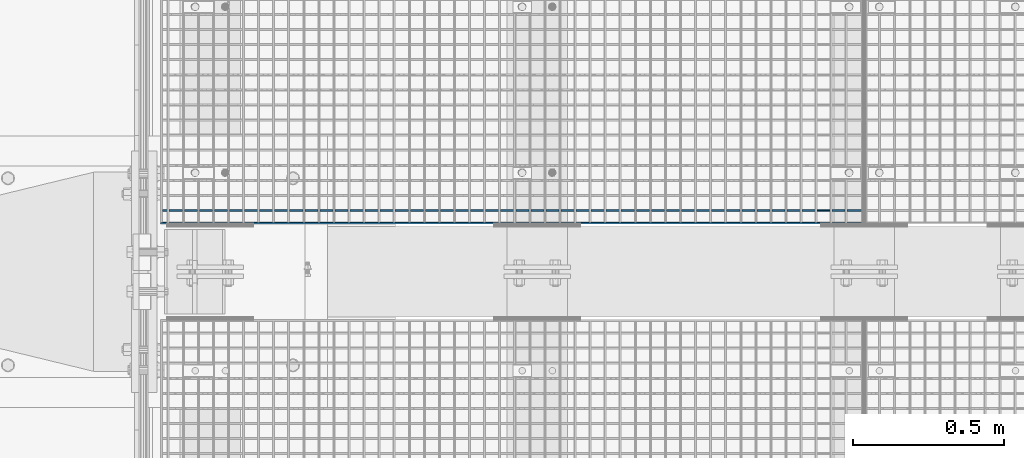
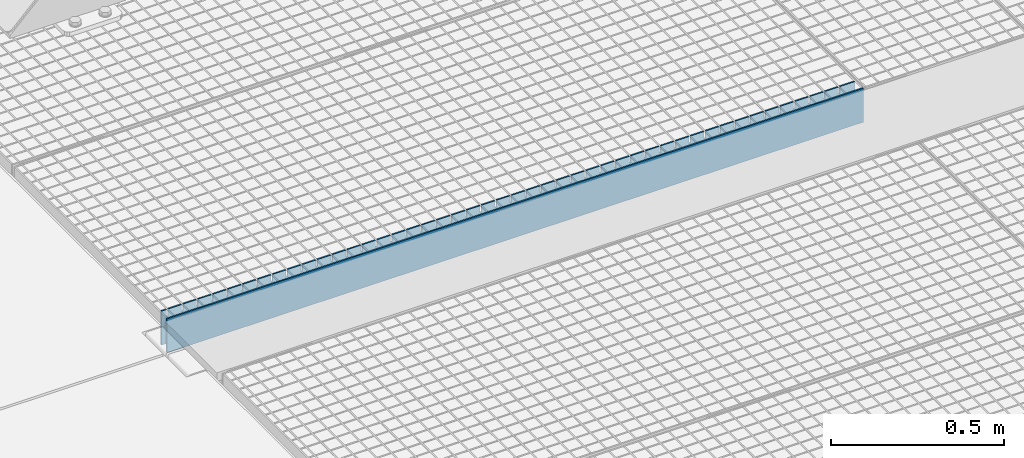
# One storey, part 317 of 1530: 2 beams.
"""IFC2X3 building model written with IfcOpenShell, lengths in millimetres."""

from ifc_helpers import new_model, si_unit, frame, origin_with_axes, place, context, subcontext, project, spatial, faceted_brep, material, type_object, element, save


model = new_model("IFC2X3")

# Units and contexts
model_context = context("Model", 3, precision=1e-05, world=origin_with_axes())
body_context = subcontext(model_context, "Body", "Model", "MODEL_VIEW")
ifc_project = project(units=[si_unit("LENGTHUNIT", "METRE", prefix="MILLI"), si_unit("AREAUNIT", "SQUARE_METRE"), si_unit("VOLUMEUNIT", "CUBIC_METRE"), si_unit("MASSUNIT", "GRAM", prefix="KILO"), si_unit("TIMEUNIT", "SECOND"), si_unit("PLANEANGLEUNIT", "RADIAN"), si_unit("SOLIDANGLEUNIT", "STERADIAN"), si_unit("THERMODYNAMICTEMPERATUREUNIT", "DEGREE_CELSIUS"), si_unit("LUMINOUSINTENSITYUNIT", "LUMEN")], contexts=[model_context])

# Site, building, storey
site_placement = place(None, origin_with_axes())
site = spatial("IfcSite", under=ifc_project, at=site_placement, Name="Brattvåg", CompositionType="ELEMENT")
building_placement = place(site_placement, origin_with_axes())
building = spatial("IfcBuilding", under=site, at=building_placement, Name="Undefined", CompositionType="ELEMENT")
storey_placement = place(building_placement, origin_with_axes())
storey = spatial("IfcBuildingStorey", under=building, at=storey_placement, Name="Undefined", CompositionType="ELEMENT", Elevation=0.0)

# Beams
ifc_material = material(Name="STEEL/S355J2")
beam_type = type_object("IfcBeamType", Name="120*5", PredefinedType="NOTDEFINED")
beam_1_placement = place(storey_placement, frame((2347.01317977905, 6202.99487304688, -59.9998626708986), z_axis=(0.0, 0.0, 1.0), x_axis=(-1.0, 1.99999855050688e-09, 0.0)))
element("IfcBeam", 1, at=beam_1_placement, inside=storey, type_object=beam_type, material=ifc_material, Name="GRATING", context=body_context, shape_type="Brep", body=[
    faceted_brep([(99.4490367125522, -2.50000000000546, 60.0000722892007), (99.4490367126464, -2.50000000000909, 35.0001373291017), (99.4490367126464, 2.50022888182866, 35.0001373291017), (99.4490367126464, 2.5, 60.0), (104.449036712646, -2.50000000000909, 35.0001373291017), (104.449036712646, 2.50022888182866, 35.0001373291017), (104.449036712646, -2.50000000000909, 60.0001373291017), (104.449036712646, 2.5, 60.0), (54.5084370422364, -2.50000000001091, 60.0001373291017), (54.5084370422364, 2.5, 60.0), (54.5084370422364, 2.49999999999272, 35.0001373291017), (54.5084370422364, -2.50000000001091, 35.0001373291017), (49.5084370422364, 2.49999999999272, 35.0001373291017), (49.5084370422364, -2.50000000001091, 35.0001373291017), (49.5084370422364, -2.5, 60.0), (49.5084370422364, 2.5, 60.0), (0.0, 2.5, 60.0), (0.0, -2.5, 60.0), (0.0, -2.5, -60.0), (0.0, 2.5, -60.0), (2319.99865722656, 2.5, -60.0), (2319.99865722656, -2.5, -60.0), (2319.99865722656, -2.5, 60.0), (2319.99865722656, 2.5, 60.0), (2302.24871932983, 2.5, 60.0), (2302.24871932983, -2.50000000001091, 60.0001373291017), (2302.24871932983, 2.49999999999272, 35.0001373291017), (2302.24871932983, -2.50000000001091, 35.0001373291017), (2297.24871932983, 2.49999999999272, 35.0001373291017), (2297.24871932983, -2.50000000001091, 35.0001373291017), (2297.24871932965, -2.50000000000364, 60.0000461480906), (2297.24871932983, 2.5, 60.0), (2252.29859649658, 2.5, 60.0), (2252.29859649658, -2.50000000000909, 60.0001373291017), (2252.29859649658, 2.50022888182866, 35.0001373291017), (2252.29859649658, -2.50000000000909, 35.0001373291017), (2247.29859649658, 2.50022888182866, 35.0001373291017), (2247.29859649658, -2.50000000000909, 35.0001373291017), (2247.29859649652, -2.50000000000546, 60.0000848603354), (2247.29859649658, 2.5, 60.0), (2202.34847366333, 2.5, 60.0), (2202.34847366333, -2.50000000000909, 60.0001373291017), (2202.34847366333, 2.50022888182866, 35.0001373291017), (2202.34847366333, -2.50000000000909, 35.0001373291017), (2197.34847366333, 2.50022888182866, 35.0001373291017), (2197.34847366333, -2.50000000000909, 35.0001373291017), (2197.34847366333, -2.5, 60.0), (2197.34847366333, 2.5, 60.0), (2152.39882766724, 2.5, 60.0), (2152.39882766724, -2.50000000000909, 60.0001373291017), (2152.39882766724, 2.50022888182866, 35.0001373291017), (2152.39882766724, -2.50000000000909, 35.0001373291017), (2147.39882766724, 2.50022888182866, 35.0001373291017), (2147.39882766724, -2.50000000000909, 35.0001373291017), (2147.39882766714, -2.50000000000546, 60.0000722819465), (2147.39882766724, 2.5, 60.0), (2102.44870483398, 2.5, 60.0), (2102.44870483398, -2.50000000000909, 60.0001373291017), (2102.44870483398, 2.50022888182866, 35.0001373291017), (2102.44870483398, -2.50000000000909, 35.0001373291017), (2097.44870483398, 2.50022888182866, 35.0001373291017), (2097.44870483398, -2.50000000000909, 35.0001373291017), (2097.44870483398, -2.5, 60.0), (2097.44870483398, 2.5, 60.0), (2052.49858200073, 2.5, 60.0), (2052.49858200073, -2.50000000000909, 60.0001373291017), (2052.49858200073, 2.50022888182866, 35.0001373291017), (2052.49858200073, -2.50000000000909, 35.0001373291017), (2047.49858200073, 2.50022888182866, 35.0001373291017), (2047.49858200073, -2.50000000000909, 35.0001373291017), (2047.49858200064, -2.50000000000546, 60.0000722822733), (2047.49858200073, 2.5, 60.0), (2002.54845916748, 2.5, 60.0), (2002.54845916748, -2.50000000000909, 60.0001373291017), (2002.54845916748, 2.50022888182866, 35.0001373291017), (2002.54845916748, -2.50000000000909, 35.0001373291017), (1997.54845916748, 2.50022888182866, 35.0001373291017), (1997.54845916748, -2.50000000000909, 35.0001373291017), (1997.54845916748, -2.5, 60.0), (1997.54845916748, 2.5, 60.0), (1952.59881317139, 2.5, 60.0), (1952.59881317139, -2.50000000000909, 60.0001373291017), (1952.59881317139, 2.50022888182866, 35.0001373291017), (1952.59881317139, -2.50000000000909, 35.0001373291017), (1947.59881317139, 2.50022888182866, 35.0001373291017), (1947.59881317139, -2.50000000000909, 35.0001373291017), (1947.59881317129, -2.50000000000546, 60.0000722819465), (1947.59881317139, 2.5, 60.0), (1902.64869033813, 2.5, 60.0), (1902.64869033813, -2.50000000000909, 60.0001373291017), (1902.64869033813, 2.50022888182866, 35.0001373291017), (1902.64869033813, -2.50000000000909, 35.0001373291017), (1897.64869033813, 2.50022888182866, 35.0001373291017), (1897.64869033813, -2.50000000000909, 35.0001373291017), (1897.64869033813, -2.5, 60.0), (1897.64869033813, 2.5, 60.0), (1852.69856750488, 2.5, 60.0), (1852.69856750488, -2.50000000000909, 60.0001373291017), (1852.69856750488, 2.50022888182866, 35.0001373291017), (1852.69856750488, -2.50000000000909, 35.0001373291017), (1847.69856750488, 2.50022888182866, 35.0001373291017), (1847.69856750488, -2.50000000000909, 35.0001373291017), (1847.69856750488, -2.5, 60.0), (1847.69856750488, 2.5, 60.0), (1802.74892150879, 2.5, 60.0), (1802.74892150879, -2.50000000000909, 60.0001373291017), (1802.74892150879, 2.50022888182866, 35.0001373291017), (1802.74892150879, -2.50000000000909, 35.0001373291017), (1797.74892150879, 2.50022888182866, 35.0001373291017), (1797.74892150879, -2.50000000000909, 35.0001373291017), (1797.74892150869, -2.50000000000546, 60.0000722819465), (1797.74892150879, 2.5, 60.0), (1752.79879867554, 2.5, 60.0), (1752.79879867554, -2.50000000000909, 60.0001373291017), (1752.79879867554, 2.50022888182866, 35.0001373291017), (1752.79879867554, -2.50000000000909, 35.0001373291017), (1747.79879867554, 2.50022888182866, 35.0001373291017), (1747.79879867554, -2.50000000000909, 35.0001373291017), (1747.79879867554, -2.5, 60.0), (1747.79879867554, 2.5, 60.0), (1702.84867584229, 2.5, 60.0), (1702.84867584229, -2.50000000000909, 60.0001373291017), (1702.84867584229, 2.50022888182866, 35.0001373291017), (1702.84867584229, -2.50000000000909, 35.0001373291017), (1697.84867584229, 2.50022888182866, 35.0001373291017), (1697.84867584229, -2.50000000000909, 35.0001373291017), (1697.84867584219, -2.50000000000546, 60.0000722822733), (1697.84867584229, 2.5, 60.0), (1652.89855300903, 2.5, 60.0), (1652.89855300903, -2.50000000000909, 60.0001373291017), (1652.89855300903, 2.50022888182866, 35.0001373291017), (1652.89855300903, -2.50000000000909, 35.0001373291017), (1647.89855300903, 2.50022888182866, 35.0001373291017), (1647.89855300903, -2.50000000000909, 35.0001373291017), (1647.89855300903, -2.5, 60.0), (1647.89855300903, 2.5, 60.0), (1602.94890701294, 2.5, 60.0), (1602.94890701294, -2.50000000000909, 60.0001373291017), (1602.94890701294, 2.50022888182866, 35.0001373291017), (1602.94890701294, -2.50000000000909, 35.0001373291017), (1597.94890701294, 2.50022888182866, 35.0001373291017), (1597.94890701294, -2.50000000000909, 35.0001373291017), (1597.94890701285, -2.50000000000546, 60.0000722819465), (1597.94890701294, 2.5, 60.0), (1552.99878417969, 2.5, 60.0), (1552.99878417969, -2.50000000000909, 60.0001373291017), (1552.99878417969, 2.50022888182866, 35.0001373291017), (1552.99878417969, -2.50000000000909, 35.0001373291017), (1547.99878417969, 2.50022888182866, 35.0001373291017), (1547.99878417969, -2.50000000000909, 35.0001373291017), (1547.99878417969, -2.5, 60.0), (1547.99878417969, 2.5, 60.0), (1503.04866134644, 2.5, 60.0), (1503.04866134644, -2.50000000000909, 60.0001373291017), (1503.04866134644, 2.50022888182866, 35.0001373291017), (1503.04866134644, -2.50000000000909, 35.0001373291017), (1498.04866134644, 2.50022888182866, 35.0001373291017), (1498.04866134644, -2.50000000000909, 35.0001373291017), (1498.04866134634, -2.50000000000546, 60.0000722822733), (1498.04866134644, 2.5, 60.0), (1453.09853851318, 2.5, 60.0), (1453.09853851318, -2.50000000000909, 60.0001373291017), (1453.09853851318, 2.50022888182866, 35.0001373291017), (1453.09853851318, -2.50000000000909, 35.0001373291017), (1448.09853851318, 2.50022888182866, 35.0001373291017), (1448.09853851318, -2.50000000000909, 35.0001373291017), (1448.09853851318, -2.5, 60.0), (1448.09853851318, 2.5, 60.0), (1403.14889251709, 2.5, 60.0), (1403.14889251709, -2.50000000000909, 60.0001373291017), (1403.14889251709, 2.50022888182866, 35.0001373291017), (1403.14889251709, -2.50000000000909, 35.0001373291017), (1398.14889251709, 2.50022888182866, 35.0001373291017), (1398.14889251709, -2.50000000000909, 35.0001373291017), (1398.148892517, -2.50000000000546, 60.0000722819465), (1398.14889251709, 2.5, 60.0), (1353.19876968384, 2.5, 60.0), (1353.19876968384, -2.50000000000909, 60.0001373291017), (1353.19876968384, 2.50022888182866, 35.0001373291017), (1353.19876968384, -2.50000000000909, 35.0001373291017), (1348.19876968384, 2.50022888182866, 35.0001373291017), (1348.19876968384, -2.50000000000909, 35.0001373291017), (1348.19876968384, -2.5, 60.0), (1348.19876968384, 2.5, 60.0), (1303.24864685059, 2.5, 60.0), (1303.24864685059, -2.50000000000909, 60.0001373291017), (1303.24864685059, 2.50022888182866, 35.0001373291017), (1303.24864685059, -2.50000000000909, 35.0001373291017), (1298.24864685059, 2.50022888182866, 35.0001373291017), (1298.24864685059, -2.50000000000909, 35.0001373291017), (1298.24864685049, -2.50000000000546, 60.0000722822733), (1298.24864685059, 2.5, 60.0), (1253.29852401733, 2.5, 60.0), (1253.29852401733, -2.50000000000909, 60.0001373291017), (1253.29852401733, 2.50022888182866, 35.0001373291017), (1253.29852401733, -2.50000000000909, 35.0001373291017), (1248.29852401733, 2.50022888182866, 35.0001373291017), (1248.29852401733, -2.50000000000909, 35.0001373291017), (1248.29852401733, -2.5, 60.0), (1248.29852401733, 2.5, 60.0), (1203.34887802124, 2.5, 60.0), (1203.34887802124, -2.50000000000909, 60.0001373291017), (1203.34887802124, 2.50022888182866, 35.0001373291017), (1203.34887802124, -2.50000000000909, 35.0001373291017), (1198.34887802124, 2.50022888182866, 35.0001373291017), (1198.34887802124, -2.50000000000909, 35.0001373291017), (1198.34887802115, -2.50000000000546, 60.0000722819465), (1198.34887802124, 2.5, 60.0), (1153.39875518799, 2.5, 60.0), (1153.39875518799, -2.50000000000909, 60.0001373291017), (1153.39875518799, 2.50022888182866, 35.0001373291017), (1153.39875518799, -2.50000000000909, 35.0001373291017), (1148.39875518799, 2.50022888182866, 35.0001373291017), (1148.39875518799, -2.50000000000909, 35.0001373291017), (1148.39875518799, -2.5, 60.0), (1148.39875518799, 2.5, 60.0), (1103.44863235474, 2.5, 60.0), (1103.44863235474, -2.50000000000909, 60.0001373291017), (1103.44863235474, 2.50022888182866, 35.0001373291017), (1103.44863235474, -2.50000000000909, 35.0001373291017), (1098.44863235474, 2.50022888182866, 35.0001373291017), (1098.44863235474, -2.50000000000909, 35.0001373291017), (1098.44863235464, -2.50000000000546, 60.0000722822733), (1098.44863235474, 2.5, 60.0), (1053.49850952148, 2.5, 60.0), (1053.49850952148, -2.50000000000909, 60.0001373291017), (1053.49850952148, 2.50022888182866, 35.0001373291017), (1053.49850952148, -2.50000000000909, 35.0001373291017), (1048.49850952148, 2.50022888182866, 35.0001373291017), (1048.49850952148, -2.50000000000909, 35.0001373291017), (1048.49850952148, -2.5, 60.0), (1048.49850952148, 2.5, 60.0), (1003.54886352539, 2.5, 60.0), (1003.54886352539, -2.50000000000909, 60.0001373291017), (1003.54886352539, 2.50022888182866, 35.0001373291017), (1003.54886352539, -2.50000000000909, 35.0001373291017), (998.548863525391, 2.50022888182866, 35.0001373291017), (998.548863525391, -2.50000000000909, 35.0001373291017), (998.548863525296, -2.50000000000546, 60.0000722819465), (998.548863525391, 2.5, 60.0), (953.598740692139, 2.5, 60.0), (953.598740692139, -2.50000000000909, 60.0001373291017), (953.598740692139, 2.50022888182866, 35.0001373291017), (953.598740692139, -2.50000000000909, 35.0001373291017), (948.598740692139, 2.50022888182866, 35.0001373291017), (948.598740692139, -2.50000000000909, 35.0001373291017), (948.598740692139, -2.5, 60.0), (948.598740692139, 2.5, 60.0), (903.648617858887, 2.5, 60.0), (903.648617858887, -2.50000000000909, 60.0001373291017), (903.648617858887, 2.50022888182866, 35.0001373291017), (903.648617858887, -2.50000000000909, 35.0001373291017), (898.648617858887, 2.50022888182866, 35.0001373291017), (898.648617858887, -2.50000000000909, 35.0001373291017), (898.648617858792, -2.50000000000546, 60.0000722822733), (898.648617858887, 2.5, 60.0), (853.698495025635, 2.5, 60.0), (853.698495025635, -2.50000000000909, 60.0001373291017), (853.698495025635, 2.50022888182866, 35.0001373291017), (853.698495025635, -2.50000000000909, 35.0001373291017), (848.698495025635, 2.50022888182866, 35.0001373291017), (848.698495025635, -2.50000000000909, 35.0001373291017), (848.698495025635, -2.5, 60.0), (848.698495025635, 2.5, 60.0), (803.748849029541, 2.5, 60.0), (803.748849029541, -2.50000000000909, 60.0001373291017), (803.748849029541, 2.50022888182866, 35.0001373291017), (803.748849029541, -2.50000000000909, 35.0001373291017), (798.748849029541, 2.50022888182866, 35.0001373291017), (798.748849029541, -2.50000000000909, 35.0001373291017), (798.748849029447, -2.50000000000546, 60.0000722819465), (798.748849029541, 2.5, 60.0), (753.798726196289, 2.5, 60.0), (753.798726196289, -2.50000000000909, 60.0001373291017), (753.798726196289, 2.50022888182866, 35.0001373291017), (753.798726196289, -2.50000000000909, 35.0001373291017), (748.798726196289, 2.50022888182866, 35.0001373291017), (748.798726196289, -2.50000000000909, 35.0001373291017), (748.798726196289, -2.5, 60.0), (748.798726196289, 2.5, 60.0), (703.848603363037, 2.5, 60.0), (703.848603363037, -2.50000000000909, 60.0001373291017), (703.848603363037, 2.50022888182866, 35.0001373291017), (703.848603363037, -2.50000000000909, 35.0001373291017), (698.848603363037, 2.50022888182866, 35.0001373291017), (698.848603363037, -2.50000000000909, 35.0001373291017), (698.848603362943, -2.50000000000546, 60.0000722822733), (698.848603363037, 2.5, 60.0), (653.898480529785, 2.5, 60.0), (653.898480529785, -2.50000000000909, 60.0001373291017), (653.898480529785, 2.50022888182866, 35.0001373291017), (653.898480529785, -2.50000000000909, 35.0001373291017), (648.898480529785, 2.50022888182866, 35.0001373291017), (648.898480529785, -2.50000000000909, 35.0001373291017), (648.898480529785, -2.5, 60.0), (648.898480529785, 2.5, 60.0), (603.948834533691, 2.5, 60.0), (603.948834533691, -2.50000000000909, 60.0001373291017), (603.948834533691, 2.50022888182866, 35.0001373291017), (603.948834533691, -2.50000000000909, 35.0001373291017), (598.948834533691, 2.50022888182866, 35.0001373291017), (598.948834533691, -2.50000000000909, 35.0001373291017), (598.948834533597, -2.50000000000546, 60.0000722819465), (598.948834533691, 2.5, 60.0), (553.998711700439, 2.5, 60.0), (553.998711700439, -2.50000000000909, 60.0001373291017), (553.998711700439, 2.50022888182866, 35.0001373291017), (553.998711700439, -2.50000000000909, 35.0001373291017), (548.998711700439, 2.50022888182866, 35.0001373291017), (548.998711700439, -2.50000000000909, 35.0001373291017), (548.998711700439, -2.5, 60.0), (548.998711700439, 2.5, 60.0), (504.048588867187, 2.5, 60.0), (504.048588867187, -2.50000000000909, 60.0001373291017), (504.048588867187, 2.50022888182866, 35.0001373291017), (504.048588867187, -2.50000000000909, 35.0001373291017), (499.048588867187, 2.50022888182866, 35.0001373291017), (499.048588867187, -2.50000000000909, 35.0001373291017), (499.048588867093, -2.50000000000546, 60.0000722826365), (499.048588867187, 2.5, 60.0), (454.098942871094, 2.5, 60.0), (454.098942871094, -2.50000000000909, 60.0001373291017), (454.098942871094, 2.50022888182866, 35.0001373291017), (454.098942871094, -2.50000000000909, 35.0001373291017), (449.098942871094, 2.50022888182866, 35.0001373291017), (449.098942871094, -2.50000000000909, 35.0001373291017), (449.098942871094, -2.5, 60.0), (449.098942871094, 2.5, 60.0), (404.148820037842, 2.5, 60.0), (404.148820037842, -2.50000000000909, 60.0001373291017), (404.148820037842, 2.50022888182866, 35.0001373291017), (404.148820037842, -2.50000000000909, 35.0001373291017), (399.148820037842, 2.50022888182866, 35.0001373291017), (399.148820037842, -2.50000000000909, 35.0001373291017), (399.148820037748, -2.50000000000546, 60.0000722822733), (399.148820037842, 2.5, 60.0), (354.19869720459, 2.5, 60.0), (354.19869720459, -2.50000000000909, 60.0001373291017), (354.19869720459, 2.50022888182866, 35.0001373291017), (354.19869720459, -2.50000000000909, 35.0001373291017), (349.19869720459, 2.50022888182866, 35.0001373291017), (349.19869720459, -2.50000000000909, 35.0001373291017), (349.19869720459, -2.5, 60.0), (349.19869720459, 2.5, 60.0), (304.248574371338, 2.5, 60.0), (304.248574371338, -2.50000000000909, 60.0001373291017), (304.248574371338, 2.50022888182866, 35.0001373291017), (304.248574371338, -2.50000000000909, 35.0001373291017), (299.248574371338, 2.50022888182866, 35.0001373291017), (299.248574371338, -2.50000000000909, 35.0001373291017), (299.248574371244, -2.50000000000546, 60.0000722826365), (299.248574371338, 2.5, 60.0), (254.298928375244, 2.5, 60.0), (254.298928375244, -2.50000000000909, 60.0001373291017), (254.298928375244, 2.50022888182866, 35.0001373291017), (254.298928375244, -2.50000000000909, 35.0001373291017), (249.298928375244, 2.50022888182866, 35.0001373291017), (249.298928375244, -2.50000000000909, 35.0001373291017), (249.298928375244, -2.5, 60.0), (249.298928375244, 2.5, 60.0), (204.348328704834, 2.5, 60.0), (204.348328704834, -2.50000000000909, 60.0001373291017), (204.348328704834, 2.50022888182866, 35.0001373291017), (204.348328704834, -2.50000000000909, 35.0001373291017), (199.348328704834, 2.50022888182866, 35.0001373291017), (199.348328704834, -2.50000000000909, 35.0001373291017), (199.34832870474, -2.50000000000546, 60.0000722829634), (199.348328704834, 2.5, 60.0), (154.39868270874, 2.5, 60.0), (154.39868270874, -2.50000000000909, 60.0001373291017), (154.39868270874, 2.50022888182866, 35.0001373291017), (154.39868270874, -2.50000000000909, 35.0001373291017), (149.39868270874, 2.50022888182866, 35.0001373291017), (149.39868270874, -2.50000000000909, 35.0001373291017), (149.39868270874, -2.5, 60.0), (149.39868270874, 2.5, 60.0)], [[[0, 1, 2, 3]], [[4, 5, 2, 1]], [[6, 7, 5, 4]], [[8, 9, 10, 11]], [[11, 10, 12, 13]], [[14, 13, 12, 15]], [[16, 17, 14, 15]], [[18, 17, 16, 19]], [[18, 19, 20, 21]], [[22, 21, 20, 23]], [[22, 23, 24, 25]], [[25, 24, 26, 27]], [[27, 26, 28, 29]], [[30, 29, 28, 31]], [[32, 33, 30, 31]], [[33, 32, 34, 35]], [[35, 34, 36, 37]], [[38, 37, 36, 39]], [[40, 41, 38, 39]], [[41, 40, 42, 43]], [[43, 42, 44, 45]], [[46, 45, 44, 47]], [[46, 47, 48, 49]], [[49, 48, 50, 51]], [[51, 50, 52, 53]], [[54, 53, 52, 55]], [[56, 57, 54, 55]], [[57, 56, 58, 59]], [[59, 58, 60, 61]], [[62, 61, 60, 63]], [[62, 63, 64, 65]], [[65, 64, 66, 67]], [[67, 66, 68, 69]], [[70, 69, 68, 71]], [[72, 73, 70, 71]], [[73, 72, 74, 75]], [[75, 74, 76, 77]], [[78, 77, 76, 79]], [[78, 79, 80, 81]], [[81, 80, 82, 83]], [[83, 82, 84, 85]], [[86, 85, 84, 87]], [[88, 89, 86, 87]], [[89, 88, 90, 91]], [[91, 90, 92, 93]], [[94, 93, 92, 95]], [[94, 95, 96, 97]], [[97, 96, 98, 99]], [[99, 98, 100, 101]], [[102, 101, 100, 103]], [[102, 103, 104, 105]], [[105, 104, 106, 107]], [[107, 106, 108, 109]], [[110, 109, 108, 111]], [[112, 113, 110, 111]], [[113, 112, 114, 115]], [[115, 114, 116, 117]], [[118, 117, 116, 119]], [[118, 119, 120, 121]], [[121, 120, 122, 123]], [[123, 122, 124, 125]], [[126, 125, 124, 127]], [[128, 129, 126, 127]], [[129, 128, 130, 131]], [[131, 130, 132, 133]], [[134, 133, 132, 135]], [[134, 135, 136, 137]], [[137, 136, 138, 139]], [[139, 138, 140, 141]], [[142, 141, 140, 143]], [[144, 145, 142, 143]], [[145, 144, 146, 147]], [[147, 146, 148, 149]], [[150, 149, 148, 151]], [[150, 151, 152, 153]], [[153, 152, 154, 155]], [[155, 154, 156, 157]], [[158, 157, 156, 159]], [[160, 161, 158, 159]], [[161, 160, 162, 163]], [[163, 162, 164, 165]], [[166, 165, 164, 167]], [[166, 167, 168, 169]], [[169, 168, 170, 171]], [[171, 170, 172, 173]], [[174, 173, 172, 175]], [[176, 177, 174, 175]], [[177, 176, 178, 179]], [[179, 178, 180, 181]], [[182, 181, 180, 183]], [[182, 183, 184, 185]], [[185, 184, 186, 187]], [[187, 186, 188, 189]], [[190, 189, 188, 191]], [[192, 193, 190, 191]], [[193, 192, 194, 195]], [[195, 194, 196, 197]], [[198, 197, 196, 199]], [[198, 199, 200, 201]], [[201, 200, 202, 203]], [[203, 202, 204, 205]], [[206, 205, 204, 207]], [[208, 209, 206, 207]], [[209, 208, 210, 211]], [[211, 210, 212, 213]], [[214, 213, 212, 215]], [[214, 215, 216, 217]], [[217, 216, 218, 219]], [[219, 218, 220, 221]], [[222, 221, 220, 223]], [[224, 225, 222, 223]], [[225, 224, 226, 227]], [[227, 226, 228, 229]], [[230, 229, 228, 231]], [[230, 231, 232, 233]], [[233, 232, 234, 235]], [[235, 234, 236, 237]], [[238, 237, 236, 239]], [[240, 241, 238, 239]], [[241, 240, 242, 243]], [[243, 242, 244, 245]], [[246, 245, 244, 247]], [[246, 247, 248, 249]], [[249, 248, 250, 251]], [[251, 250, 252, 253]], [[254, 253, 252, 255]], [[256, 257, 254, 255]], [[257, 256, 258, 259]], [[259, 258, 260, 261]], [[262, 261, 260, 263]], [[262, 263, 264, 265]], [[265, 264, 266, 267]], [[267, 266, 268, 269]], [[270, 269, 268, 271]], [[272, 273, 270, 271]], [[273, 272, 274, 275]], [[275, 274, 276, 277]], [[278, 277, 276, 279]], [[278, 279, 280, 281]], [[281, 280, 282, 283]], [[283, 282, 284, 285]], [[286, 285, 284, 287]], [[288, 289, 286, 287]], [[289, 288, 290, 291]], [[291, 290, 292, 293]], [[294, 293, 292, 295]], [[294, 295, 296, 297]], [[297, 296, 298, 299]], [[299, 298, 300, 301]], [[302, 301, 300, 303]], [[304, 305, 302, 303]], [[305, 304, 306, 307]], [[307, 306, 308, 309]], [[310, 309, 308, 311]], [[310, 311, 312, 313]], [[313, 312, 314, 315]], [[315, 314, 316, 317]], [[318, 317, 316, 319]], [[320, 321, 318, 319]], [[321, 320, 322, 323]], [[323, 322, 324, 325]], [[326, 325, 324, 327]], [[326, 327, 328, 329]], [[329, 328, 330, 331]], [[331, 330, 332, 333]], [[334, 333, 332, 335]], [[336, 337, 334, 335]], [[337, 336, 338, 339]], [[339, 338, 340, 341]], [[342, 341, 340, 343]], [[342, 343, 344, 345]], [[345, 344, 346, 347]], [[347, 346, 348, 349]], [[350, 349, 348, 351]], [[352, 353, 350, 351]], [[353, 352, 354, 355]], [[355, 354, 356, 357]], [[358, 357, 356, 359]], [[358, 359, 360, 361]], [[361, 360, 362, 363]], [[363, 362, 364, 365]], [[366, 365, 364, 367]], [[368, 369, 366, 367]], [[369, 368, 370, 371]], [[371, 370, 372, 373]], [[374, 373, 372, 375]], [[1, 0, 8, 11, 13, 14, 17, 18, 21, 22, 25, 27, 29, 30, 33, 35, 37, 38, 41, 43, 45, 46, 49, 51, 53, 54, 57, 59, 61, 62, 65, 67, 69, 70, 73, 75, 77, 78, 81, 83, 85, 86, 89, 91, 93, 94, 97, 99, 101, 102, 105, 107, 109, 110, 113, 115, 117, 118, 121, 123, 125, 126, 129, 131, 133, 134, 137, 139, 141, 142, 145, 147, 149, 150, 153, 155, 157, 158, 161, 163, 165, 166, 169, 171, 173, 174, 177, 179, 181, 182, 185, 187, 189, 190, 193, 195, 197, 198, 201, 203, 205, 206, 209, 211, 213, 214, 217, 219, 221, 222, 225, 227, 229, 230, 233, 235, 237, 238, 241, 243, 245, 246, 249, 251, 253, 254, 257, 259, 261, 262, 265, 267, 269, 270, 273, 275, 277, 278, 281, 283, 285, 286, 289, 291, 293, 294, 297, 299, 301, 302, 305, 307, 309, 310, 313, 315, 317, 318, 321, 323, 325, 326, 329, 331, 333, 334, 337, 339, 341, 342, 345, 347, 349, 350, 353, 355, 357, 358, 361, 363, 365, 366, 369, 371, 373, 374, 6, 4]], [[9, 8, 0, 3]], [[375, 372, 370, 368, 367, 364, 362, 360, 359, 356, 354, 352, 351, 348, 346, 344, 343, 340, 338, 336, 335, 332, 330, 328, 327, 324, 322, 320, 319, 316, 314, 312, 311, 308, 306, 304, 303, 300, 298, 296, 295, 292, 290, 288, 287, 284, 282, 280, 279, 276, 274, 272, 271, 268, 266, 264, 263, 260, 258, 256, 255, 252, 250, 248, 247, 244, 242, 240, 239, 236, 234, 232, 231, 228, 226, 224, 223, 220, 218, 216, 215, 212, 210, 208, 207, 204, 202, 200, 199, 196, 194, 192, 191, 188, 186, 184, 183, 180, 178, 176, 175, 172, 170, 168, 167, 164, 162, 160, 159, 156, 154, 152, 151, 148, 146, 144, 143, 140, 138, 136, 135, 132, 130, 128, 127, 124, 122, 120, 119, 116, 114, 112, 111, 108, 106, 104, 103, 100, 98, 96, 95, 92, 90, 88, 87, 84, 82, 80, 79, 76, 74, 72, 71, 68, 66, 64, 63, 60, 58, 56, 55, 52, 50, 48, 47, 44, 42, 40, 39, 36, 34, 32, 31, 28, 26, 24, 23, 20, 19, 16, 15, 12, 10, 9, 3, 2, 5, 7]], [[374, 375, 7, 6]]]),
])
beam_2_placement = place(storey_placement, frame((22.010671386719, 6161.49868774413, -59.9998626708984), z_axis=(0.0, 0.0, 1.0), x_axis=(1.0, 0.0, 0.0)))
element("IfcBeam", 2, at=beam_2_placement, inside=storey, type_object=beam_type, material=ifc_material, Name="GRATING", context=body_context, shape_type="Brep", body=[
    faceted_brep([(0.0, 2.5, -60.0), (0.0, 2.5, 60.0), (2329.99832153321, 2.5, 60.0), (2329.99832153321, 2.5, -60.0), (0.0, -2.5, 60.0), (2329.99832153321, -2.5, 60.0), (0.0, -2.5, -60.0), (2329.99832153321, -2.5, -60.0)], [[[0, 1, 2, 3]], [[1, 4, 5, 2]], [[4, 6, 7, 5]], [[6, 0, 3, 7]], [[5, 7, 3, 2]], [[6, 4, 1, 0]]]),
])

save(model, "model.ifc")
